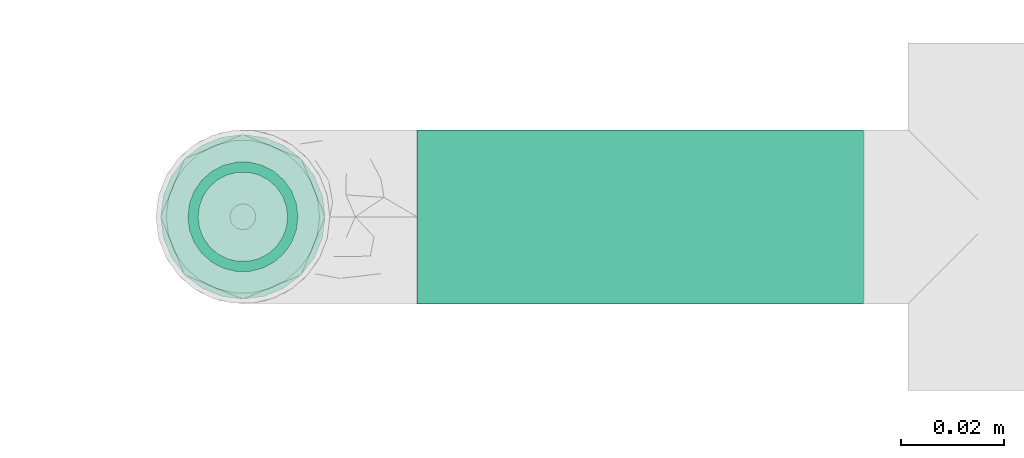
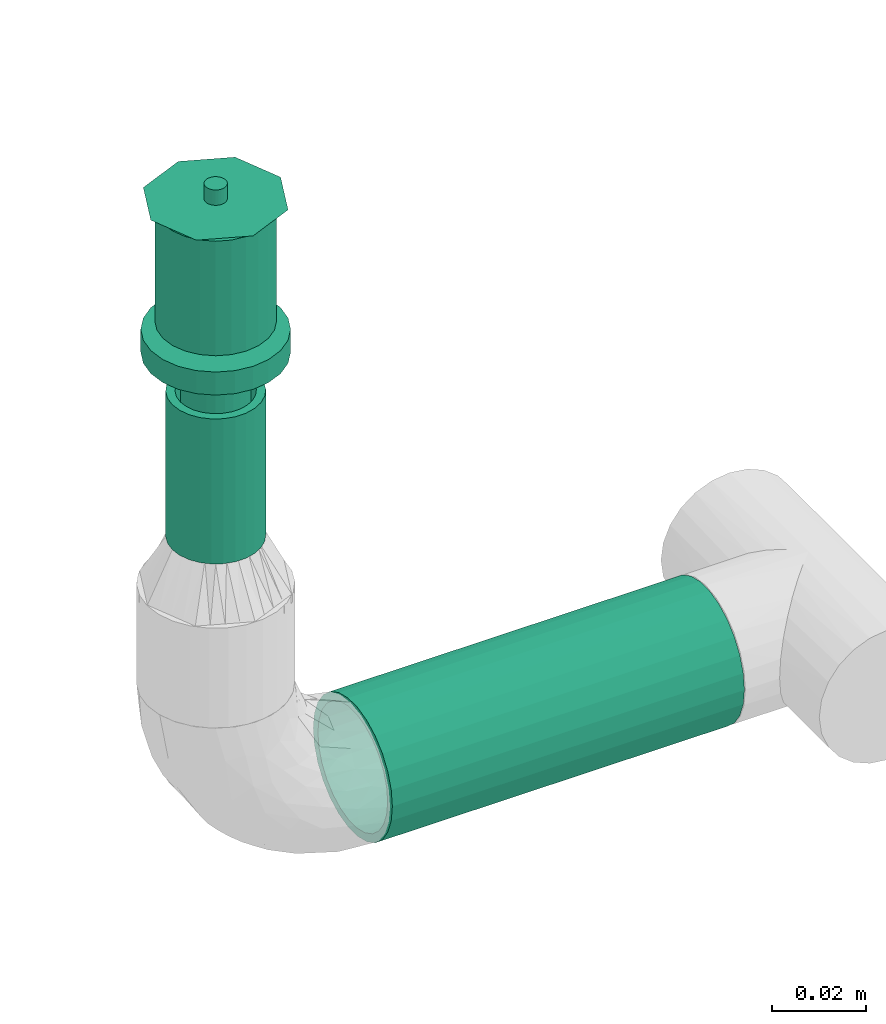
# One storey, part 75 of 157: 2 flow segments, 1 flow terminal.
"""IFC2X3 building model written with IfcOpenShell, lengths in millimetres."""

from ifc_helpers import new_model, entity, si_unit, converted_unit, derived_unit, direction, frame, origin_with_axes, origin_2d_with_axis, place, context, subcontext, project, spatial, hollow_circle, extrude, open_shell, surface_model, source, transform, mapped, type_object, element, save


model = new_model("IFC2X3")

# Units and contexts
model_context = context("Model", 3, precision=0.01, world=frame((0.0, 4.29681676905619e-09, 0.0)), true_north=direction((4.01073788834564e-13, 1.0)))
plan_context = context("Plan", 3, precision=0.01, world=frame((0.0, 4.29681676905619e-09, 0.0)), true_north=direction((4.01073788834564e-13, 1.0)))
body_context = subcontext(model_context, "Body", "Model", "MODEL_VIEW")
ifc_project = project(units=[converted_unit("PLANEANGLEUNIT", "DEGREE", entity("IfcPositiveLengthMeasure", 0.0174532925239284), si_unit("PLANEANGLEUNIT", "RADIAN"), dimensions=[0, 0, 0, 0, 0, 0, 0]), si_unit("AREAUNIT", "SQUARE_METRE"), si_unit("LENGTHUNIT", "METRE", prefix="MILLI"), si_unit("MASSUNIT", "GRAM", prefix="KILO"), si_unit("POWERUNIT", "WATT"), si_unit("PRESSUREUNIT", "PASCAL"), si_unit("FORCEUNIT", "NEWTON", prefix="KILO"), si_unit("ELECTRICCURRENTUNIT", "AMPERE"), si_unit("THERMODYNAMICTEMPERATUREUNIT", "DEGREE_CELSIUS"), si_unit("TIMEUNIT", "SECOND"), si_unit("VOLUMEUNIT", "CUBIC_METRE"), derived_unit("LINEARVELOCITYUNIT", [(si_unit("LENGTHUNIT", "METRE"), 1), (si_unit("TIMEUNIT", "SECOND"), -1)]), derived_unit("VOLUMETRICFLOWRATEUNIT", [(si_unit("VOLUMEUNIT", "CUBIC_METRE"), 1), (si_unit("TIMEUNIT", "SECOND"), -1)]), derived_unit("THERMALTRANSMITTANCEUNIT", [(si_unit("POWERUNIT", "WATT"), 1), (si_unit("THERMODYNAMICTEMPERATUREUNIT", "KELVIN"), -1), (si_unit("AREAUNIT", "SQUARE_METRE"), -1)])], contexts=[model_context, plan_context])

# Site, building, storey
site_placement = place(None, frame((0.0, -4.29681676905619e-09, 0.0), z_axis=(0.0, 0.0, 1.0), x_axis=(1.0, 0.0, 0.0)))
site = spatial("IfcSite", under=ifc_project, at=site_placement, CompositionType="ELEMENT")
building_placement = place(site_placement, frame((0.0, 4.29681676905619e-09, 0.0), z_axis=(0.0, 0.0, 1.0), x_axis=(1.0, 0.0, 0.0)))
building = spatial("IfcBuilding", under=site, at=building_placement, Name="mc-building", CompositionType="ELEMENT")
storey_placement = place(building_placement, frame((0.0, 0.0, 204000.0), z_axis=(0.0, 0.0, 1.0), x_axis=(1.0, 0.0, 0.0)))
storey = spatial("IfcBuildingStorey", under=building, at=storey_placement, Name="Nivå D", CompositionType="ELEMENT", Elevation=204000.0)

# Flow segments
pipe_segment_type = type_object("IfcPipeSegmentType", Name="Stålrør normaltykke", PredefinedType="RIGIDSEGMENT")
shared_shape_1 = source(origin_with_axes(), body_context, "Body", "SweptSolid", [
    extrude(hollow_circle(Radius=16.9, WallThickness=2.0, at=origin_2d_with_axis()), frame((0.0, 0.0, 0.0), z_axis=(1.0, 0.0, 0.0), x_axis=(0.0, 1.0, 0.0)), (0.0, 0.0, 1.0), 86.8),
])
flow_segment_1_placement = place(storey_placement, frame((515910.63732, 415796.86725, 2565.0), z_axis=(0.0, 0.0, 1.0), x_axis=(1.0, 0.0, 0.0)))
element("IfcFlowSegment", 1, at=flow_segment_1_placement, inside=storey, type_object=pipe_segment_type, Name="Stålrør normaltykke", context=body_context, shape_type="MappedRepresentation", body=[
    mapped(shared_shape_1, transform((0.0, 0.0, 0.0), scale=1.0)),
])
shared_shape_2 = source(origin_with_axes(), body_context, "Body", "SweptSolid", [
    extrude(hollow_circle(Radius=10.7, WallThickness=2.0, at=origin_2d_with_axis()), frame((0.0, 0.0, 0.0), z_axis=(1.0, 0.0, 0.0), x_axis=(0.0, 1.0, 0.0)), (0.0, 0.0, 1.0), 37.8),
])
flow_segment_2_placement = place(storey_placement, frame((515876.83732, 415796.86725, 2675.04800000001), z_axis=(0.0, 1.0, 0.0), x_axis=(0.0, 0.0, -1.0)))
element("IfcFlowSegment", 2, at=flow_segment_2_placement, inside=storey, type_object=pipe_segment_type, Name="Stålrør normaltykke", context=body_context, shape_type="MappedRepresentation", body=[
    mapped(shared_shape_2, transform((0.0, 0.0, 0.0), scale=1.0)),
])

# Flow terminal
fire_suppression_terminal_type = type_object("IfcFireSuppressionTerminalType", Name="68DGR-STD-STÅENDE", PredefinedType="NOTDEFINED")
shared_shape_3 = source(origin_with_axes(), body_context, "Body", "SurfaceModel", [
    surface_model("IfcShellBasedSurfaceModel", [(3.36465, -12.55704, 51.0), (6.5, -11.25833, 51.0), (9.19239, -9.19239, 51.0), (12.55704, -3.36465, 51.0), (-11.25833, -6.5, 51.0), (11.25833, -6.5, 51.0), (-13.0, 0.0, 51.0), (0.0, -13.0, 51.0), (-6.5, -11.25833, 51.0), (-3.36465, -12.55704, 51.0), (-9.19239, -9.19239, 51.0), (-12.55704, -3.36465, 51.0), (13.0, 0.0, 51.0), (12.55704, 3.36465, 51.0), (11.25833, 6.5, 51.0), (9.19239, 9.19239, 51.0), (6.5, 11.25833, 51.0), (3.36465, 12.55704, 51.0), (0.0, 13.0, 51.0), (-3.36465, 12.55704, 51.0), (-12.55704, 3.36465, 51.0), (-9.19239, 9.19239, 51.0), (-11.25833, 6.5, 51.0), (-6.5, 11.25833, 51.0), (0.0, 13.0, 21.14766), (3.36465, 12.55704, 21.14766), (6.5, 11.25833, 21.14766), (-3.36465, 12.55704, 21.14766), (9.19239, 9.19239, 21.14766), (11.25833, 6.5, 21.14766), (12.55704, 3.36465, 21.14766), (-12.55704, 3.36465, 21.14766), (-11.25833, -6.5, 21.14766), (-9.19239, 9.19239, 21.14766), (-6.5, 11.25833, 21.14766), (-11.25833, 6.5, 21.14766), (-13.0, 0.0, 21.14766), (12.55704, -3.36465, 21.14766), (9.19239, -9.19239, 21.14766), (11.25833, -6.5, 21.14766), (6.5, -11.25833, 21.14766), (3.36465, -12.55704, 21.14766), (-6.5, -11.25833, 21.14766), (-9.19239, -9.19239, 21.14766), (-12.55704, -3.36465, 21.14766), (0.0, -13.0, 21.14766), (-3.36465, -12.55704, 21.14766), (13.0, 0.0, 21.14766), (7.24444, -1.94114, 0.1), (1.94114, -7.24444, 0.1), (3.75, -6.49519, 0.1), (5.3033, -5.3033, 0.1), (-5.3033, -5.3033, 0.1), (6.49519, -3.75, 0.1), (5.3033, 5.3033, 0.1), (0.0, -7.5, 0.1), (-3.75, -6.49519, 0.1), (-1.94114, -7.24444, 0.1), (-7.24444, -1.94114, 0.1), (-6.49519, -3.75, 0.1), (-7.24444, 1.94114, 0.1), (7.5, 0.0, 0.1), (6.49519, 3.75, 0.1), (-6.49519, 3.75, 0.1), (1.94114, 7.24444, 0.1), (0.0, 7.5, 0.1), (3.75, 6.49519, 0.1), (-7.5, 0.0, 0.1), (-5.3033, 5.3033, 0.1), (-1.94114, 7.24444, 0.1), (-3.75, 6.49519, 0.1), (7.24444, 1.94114, 0.1), (1.94114, 7.24444, -0.1), (-6.49519, 3.75, -0.1), (0.0, 7.5, -0.1), (5.3033, 5.3033, -0.1), (3.75, 6.49519, -0.1), (6.49519, 3.75, -0.1), (7.24444, 1.94114, -0.1), (-1.94114, 7.24444, -0.1), (-5.3033, 5.3033, -0.1), (-3.75, 6.49519, -0.1), (-7.24444, 1.94114, -0.1), (-7.24444, -1.94114, -0.1), (-7.5, 0.0, -0.1), (7.5, 0.0, -0.1), (7.24444, -1.94114, -0.1), (-5.3033, -5.3033, -0.1), (1.94114, -7.24444, -0.1), (6.49519, -3.75, -0.1), (5.3033, -5.3033, -0.1), (3.75, -6.49519, -0.1), (-6.49519, -3.75, -0.1), (-3.75, -6.49519, -0.1), (0.0, -7.5, -0.1), (-1.94114, -7.24444, -0.1), (0.0, -2.5, 51.0), (-2.5, 0.0, 51.0), (0.0, 2.5, 51.0), (2.5, 0.0, 51.0), (0.0, -16.0, 53.0), (11.31371, -11.31371, 53.0), (-11.31371, -11.31371, 53.0), (-16.0, 0.0, 53.0), (16.0, 0.0, 53.0), (11.31371, 11.31371, 53.0), (0.0, 16.0, 53.0), (-11.31371, 11.31371, 53.0), (1.25, -2.16506, 57.0), (0.0, -2.5, 57.0), (0.64705, -2.41481, 57.0), (2.41481, -0.64705, 57.0), (1.76777, -1.76777, 57.0), (-2.41481, -0.64705, 57.0), (-2.5, 0.0, 57.0), (2.16506, -1.25, 57.0), (-1.25, -2.16506, 57.0), (-0.64705, -2.41481, 57.0), (-1.76777, -1.76777, 57.0), (-2.16506, -1.25, 57.0), (2.5, 0.0, 57.0), (2.41481, 0.64705, 57.0), (2.16506, 1.25, 57.0), (1.76777, 1.76777, 57.0), (0.64705, 2.41481, 57.0), (1.25, 2.16506, 57.0), (-1.76777, 1.76777, 57.0), (0.0, 2.5, 57.0), (-2.16506, 1.25, 57.0), (-2.41481, 0.64705, 57.0), (-0.64705, 2.41481, 57.0), (-1.25, 2.16506, 57.0), (1.25, 2.16506, 51.0), (1.76777, 1.76777, 51.0), (1.15, 1.99186, 51.0), (0.59528, 2.22163, 51.0), (0.64705, 2.41481, 51.0), (0.0, 2.3, 51.0), (1.62635, 1.62635, 51.0), (2.41481, 0.64705, 51.0), (2.3, 0.0, 51.0), (2.22163, 0.59528, 51.0), (2.16506, 1.25, 51.0), (1.99186, 1.15, 51.0), (-0.59528, 2.22163, 51.0), (-0.64705, 2.41481, 51.0), (-1.15, 1.99186, 51.0), (-1.76777, 1.76777, 51.0), (-1.25, 2.16506, 51.0), (-1.62635, 1.62635, 51.0), (-1.99186, 1.15, 51.0), (-2.16506, 1.25, 51.0), (-2.22163, 0.59528, 51.0), (-2.41481, 0.64705, 51.0), (-2.3, 0.0, 51.0), (2.41481, -0.64705, 51.0), (2.22163, -0.59528, 51.0), (1.99186, -1.15, 51.0), (2.16506, -1.25, 51.0), (1.62635, -1.62635, 51.0), (1.76777, -1.76777, 51.0), (1.25, -2.16506, 51.0), (1.15, -1.99186, 51.0), (0.59528, -2.22163, 51.0), (0.64705, -2.41481, 51.0), (0.0, -2.3, 51.0), (-2.16506, -1.25, 51.0), (-1.99186, -1.15, 51.0), (-1.76777, -1.76777, 51.0), (-1.62635, -1.62635, 51.0), (-2.41481, -0.64705, 51.0), (-2.22163, -0.59528, 51.0), (-0.59528, -2.22163, 51.0), (-0.64705, -2.41481, 51.0), (-1.15, -1.99186, 51.0), (-1.25, -2.16506, 51.0), (1.62635, -1.62635, 56.8), (1.15, -1.99186, 56.8), (0.59528, -2.22163, 56.8), (0.0, -2.3, 56.8), (2.22163, 0.59528, 56.8), (1.99186, -1.15, 56.8), (2.22163, -0.59528, 56.8), (-0.59528, -2.22163, 56.8), (-1.15, -1.99186, 56.8), (-1.62635, -1.62635, 56.8), (-1.99186, -1.15, 56.8), (-2.22163, -0.59528, 56.8), (-1.99186, 1.15, 56.8), (2.3, 0.0, 56.8), (1.62635, 1.62635, 56.8), (1.99186, 1.15, 56.8), (1.15, 1.99186, 56.8), (0.0, 2.3, 56.8), (0.59528, 2.22163, 56.8), (-2.22163, 0.59528, 56.8), (-2.3, 0.0, 56.8), (-1.15, 1.99186, 56.8), (-0.59528, 2.22163, 56.8), (-1.62635, 1.62635, 56.8), (4.1411, -15.45481, 19.0), (8.0, -13.85641, 19.0), (11.31371, -11.31371, 19.0), (-8.0, -13.85641, 19.0), (15.45481, -4.1411, 19.0), (16.0, 0.0, 19.0), (13.85641, -8.0, 19.0), (0.0, -16.0, 19.0), (-4.1411, -15.45481, 19.0), (-13.85641, -8.0, 19.0), (-11.31371, -11.31371, 19.0), (-15.45481, -4.1411, 19.0), (15.45481, 4.1411, 19.0), (13.85641, 8.0, 19.0), (11.31371, 11.31371, 19.0), (-4.1411, 15.45481, 19.0), (8.0, 13.85641, 19.0), (4.1411, 15.45481, 19.0), (0.0, 16.0, 19.0), (-13.85641, 8.0, 19.0), (-15.45481, 4.1411, 19.0), (-16.0, 0.0, 19.0), (-11.31371, 11.31371, 19.0), (-8.0, 13.85641, 19.0), (0.0, 16.0, 13.0), (4.1411, 15.45481, 13.0), (8.0, 13.85641, 13.0), (-4.1411, 15.45481, 13.0), (11.31371, 11.31371, 13.0), (13.85641, 8.0, 13.0), (15.45481, 4.1411, 13.0), (-15.45481, -4.1411, 13.0), (-11.31371, 11.31371, 13.0), (-8.0, 13.85641, 13.0), (-13.85641, 8.0, 13.0), (-15.45481, 4.1411, 13.0), (-16.0, 0.0, 13.0), (4.1411, -15.45481, 13.0), (16.0, 0.0, 13.0), (15.45481, -4.1411, 13.0), (13.85641, -8.0, 13.0), (11.31371, -11.31371, 13.0), (8.0, -13.85641, 13.0), (-8.0, -13.85641, 13.0), (-13.85641, -8.0, 13.0), (-11.31371, -11.31371, 13.0), (0.0, -16.0, 13.0), (-4.1411, -15.45481, 13.0), (7.24444, -1.94114, 13.0), (1.94114, -7.24444, 13.0), (3.75, -6.49519, 13.0), (5.3033, -5.3033, 13.0), (-5.3033, -5.3033, 13.0), (6.49519, -3.75, 13.0), (5.3033, 5.3033, 13.0), (0.0, -7.5, 13.0), (-3.75, -6.49519, 13.0), (-1.94114, -7.24444, 13.0), (-7.24444, -1.94114, 13.0), (-6.49519, -3.75, 13.0), (-7.24444, 1.94114, 13.0), (7.5, 0.0, 13.0), (6.49519, 3.75, 13.0), (-6.49519, 3.75, 13.0), (1.94114, 7.24444, 13.0), (0.0, 7.5, 13.0), (3.75, 6.49519, 13.0), (-7.5, 0.0, 13.0), (-5.3033, 5.3033, 13.0), (-1.94114, 7.24444, 13.0), (-3.75, 6.49519, 13.0), (7.24444, 1.94114, 13.0), (3.75, 6.49519, 0.0), (5.3033, 5.3033, 0.0), (3.65, 6.32199, 0.0), (1.88938, 7.05126, 0.0), (0.0, 7.3, 0.0), (1.94114, 7.24444, 0.0), (0.0, 7.5, 0.0), (5.16188, 5.16188, 0.0), (7.24444, 1.94114, 0.0), (7.3, 0.0, 0.0), (7.05126, 1.88938, 0.0), (7.5, 0.0, 0.0), (6.49519, 3.75, 0.0), (6.32199, 3.65, 0.0), (-1.88938, 7.05126, 0.0), (-1.94114, 7.24444, 0.0), (-3.65, 6.32199, 0.0), (-5.3033, 5.3033, 0.0), (-3.75, 6.49519, 0.0), (-5.16188, 5.16188, 0.0), (-6.32199, 3.65, 0.0), (-6.49519, 3.75, 0.0), (-7.05126, 1.88938, 0.0), (-7.24444, 1.94114, 0.0), (-7.3, 0.0, 0.0), (-7.5, 0.0, 0.0), (7.24444, -1.94114, 0.0), (7.05126, -1.88938, 0.0), (6.32199, -3.65, 0.0), (6.49519, -3.75, 0.0), (5.16188, -5.16188, 0.0), (5.3033, -5.3033, 0.0), (3.75, -6.49519, 0.0), (3.65, -6.32199, 0.0), (1.88938, -7.05126, 0.0), (1.94114, -7.24444, 0.0), (0.0, -7.3, 0.0), (0.0, -7.5, 0.0), (-6.49519, -3.75, 0.0), (-6.32199, -3.65, 0.0), (-5.3033, -5.3033, 0.0), (-5.16188, -5.16188, 0.0), (-7.24444, -1.94114, 0.0), (-7.05126, -1.88938, 0.0), (-1.88938, -7.05126, 0.0), (-1.94114, -7.24444, 0.0), (-3.65, -6.32199, 0.0), (-3.75, -6.49519, 0.0), (1.88938, -7.05126, 12.8), (0.0, -7.3, 12.8), (3.65, -6.32199, 12.8), (5.16188, -5.16188, 12.8), (6.32199, -3.65, 12.8), (7.05126, 1.88938, 12.8), (7.05126, -1.88938, 12.8), (-5.16188, -5.16188, 12.8), (-1.88938, -7.05126, 12.8), (-3.65, -6.32199, 12.8), (-6.32199, -3.65, 12.8), (-7.05126, -1.88938, 12.8), (0.0, 7.3, 12.8), (7.3, 0.0, 12.8), (6.32199, 3.65, 12.8), (5.16188, 5.16188, 12.8), (3.65, 6.32199, 12.8), (1.88938, 7.05126, 12.8), (-6.32199, 3.65, 12.8), (-7.05126, 1.88938, 12.8), (-7.3, 0.0, 12.8), (-3.65, 6.32199, 12.8), (-1.88938, 7.05126, 12.8), (-5.16188, 5.16188, 12.8)], [open_shell([[[0, 1, 2]], [[0, 2, 3]], [[0, 3, 4]], [[3, 2, 5]], [[6, 4, 3]], [[7, 8, 9]], [[7, 0, 8]], [[8, 4, 10]], [[0, 4, 8]], [[4, 6, 11]], [[6, 3, 12]], [[13, 14, 15]], [[6, 13, 15]], [[16, 17, 18]], [[15, 16, 19]], [[18, 19, 16]], [[20, 21, 22]], [[20, 6, 15]], [[21, 19, 23]], [[19, 21, 20]], [[15, 19, 20]], [[13, 6, 12]], [[24, 25, 26]], [[27, 24, 26]], [[28, 29, 30]], [[26, 28, 31]], [[28, 32, 31]], [[27, 33, 34]], [[33, 27, 31]], [[33, 31, 35]], [[27, 26, 31]], [[31, 32, 36]], [[32, 28, 30]], [[32, 30, 37]], [[38, 37, 39]], [[38, 40, 41]], [[38, 41, 37]], [[32, 37, 41]], [[32, 42, 43]], [[44, 36, 32]], [[42, 45, 46]], [[42, 32, 41]], [[45, 42, 41]], [[30, 47, 37]], [[4, 32, 43]], [[8, 42, 46]], [[43, 42, 10]], [[9, 46, 45]], [[36, 11, 6]], [[11, 36, 44]], [[11, 44, 4]], [[44, 32, 4]], [[43, 10, 4]], [[8, 10, 42]], [[46, 9, 8]], [[45, 7, 9]], [[0, 41, 40]], [[38, 1, 40]], [[5, 39, 37]], [[38, 39, 2]], [[3, 37, 47]], [[41, 0, 7]], [[40, 1, 0]], [[38, 2, 1]], [[39, 5, 2]], [[3, 5, 37]], [[47, 12, 3]], [[41, 7, 45]], [[30, 13, 47]], [[29, 14, 30]], [[25, 24, 17]], [[15, 29, 28]], [[30, 14, 13]], [[13, 12, 47]], [[16, 26, 17]], [[16, 15, 28]], [[26, 25, 17]], [[15, 14, 29]], [[28, 26, 16]], [[24, 18, 17]], [[19, 27, 34]], [[33, 23, 34]], [[22, 35, 31]], [[33, 35, 21]], [[20, 31, 36]], [[27, 19, 18]], [[34, 23, 19]], [[33, 21, 23]], [[35, 22, 21]], [[20, 22, 31]], [[36, 6, 20]], [[27, 18, 24]], [[48, 49, 50]], [[48, 50, 51]], [[49, 48, 52]], [[48, 51, 53]], [[54, 52, 48]], [[55, 56, 57]], [[56, 55, 52]], [[52, 58, 59]], [[52, 55, 49]], [[52, 60, 58]], [[54, 48, 61]], [[62, 54, 61]], [[54, 63, 52]], [[64, 65, 54]], [[64, 54, 66]], [[63, 54, 65]], [[63, 60, 52]], [[67, 58, 60]], [[68, 69, 70]], [[69, 68, 63]], [[69, 63, 65]], [[71, 62, 61]], [[72, 73, 74]], [[75, 72, 76]], [[75, 77, 78]], [[72, 75, 73]], [[78, 73, 75]], [[79, 80, 81]], [[80, 79, 73]], [[74, 73, 79]], [[78, 82, 73]], [[82, 83, 84]], [[82, 78, 85]], [[86, 87, 85]], [[88, 86, 89]], [[90, 91, 88]], [[90, 88, 89]], [[87, 86, 88]], [[83, 87, 92]], [[83, 85, 87]], [[93, 94, 95]], [[94, 93, 87]], [[88, 94, 87]], [[85, 83, 82]], [[83, 58, 84]], [[92, 59, 83]], [[56, 87, 93]], [[92, 87, 52]], [[57, 93, 95]], [[83, 59, 58]], [[58, 67, 84]], [[57, 56, 93]], [[52, 87, 56]], [[52, 59, 92]], [[55, 57, 95]], [[95, 94, 55]], [[88, 49, 94]], [[91, 50, 88]], [[53, 90, 89]], [[91, 90, 51]], [[48, 89, 86]], [[91, 51, 50]], [[50, 49, 88]], [[61, 48, 86]], [[53, 89, 48]], [[53, 51, 90]], [[85, 61, 86]], [[94, 49, 55]], [[78, 71, 85]], [[77, 62, 78]], [[66, 75, 76]], [[77, 75, 54]], [[64, 76, 72]], [[78, 62, 71]], [[71, 61, 85]], [[64, 66, 76]], [[54, 75, 66]], [[54, 62, 77]], [[65, 64, 72]], [[72, 74, 65]], [[79, 69, 74]], [[81, 70, 79]], [[63, 80, 73]], [[81, 80, 68]], [[60, 73, 82]], [[81, 68, 70]], [[70, 69, 79]], [[67, 60, 82]], [[63, 73, 60]], [[63, 68, 80]], [[84, 67, 82]], [[74, 69, 65]], [[96, 97, 98]], [[98, 99, 96]], [[100, 101, 102]], [[103, 102, 101]], [[101, 104, 103]], [[104, 105, 106]], [[107, 103, 106]], [[106, 103, 104]], [[99, 98, 105]], [[105, 104, 99]], [[98, 106, 105]], [[98, 107, 106]], [[107, 98, 97]], [[103, 107, 97]], [[97, 96, 102]], [[102, 103, 97]], [[96, 100, 102]], [[96, 101, 100]], [[101, 96, 99]], [[104, 101, 99]], [[108, 109, 110]], [[111, 108, 112]], [[113, 108, 114]], [[111, 112, 115]], [[108, 111, 114]], [[109, 116, 117]], [[116, 109, 118]], [[118, 113, 119]], [[118, 109, 108]], [[108, 113, 118]], [[111, 120, 114]], [[121, 122, 123]], [[114, 121, 123]], [[114, 123, 124]], [[124, 123, 125]], [[126, 124, 127]], [[124, 128, 129]], [[129, 114, 124]], [[126, 130, 131]], [[128, 124, 126]], [[130, 126, 127]], [[121, 114, 120]], [[132, 133, 134]], [[132, 134, 135]], [[136, 135, 137]], [[135, 136, 132]], [[136, 137, 98]], [[134, 133, 138]], [[139, 140, 141]], [[140, 139, 99]], [[139, 141, 142]], [[138, 142, 143]], [[142, 138, 133]], [[143, 142, 141]], [[98, 144, 145]], [[98, 137, 144]], [[145, 144, 146]], [[147, 148, 149]], [[146, 148, 145]], [[149, 148, 146]], [[150, 151, 147]], [[151, 150, 152]], [[150, 147, 149]], [[153, 152, 154]], [[152, 153, 151]], [[153, 154, 97]], [[99, 155, 156]], [[156, 155, 157]], [[157, 158, 159]], [[158, 157, 155]], [[159, 158, 160]], [[160, 161, 162]], [[162, 161, 163]], [[163, 164, 165]], [[164, 163, 161]], [[165, 164, 96]], [[162, 159, 160]], [[166, 167, 168]], [[168, 167, 169]], [[167, 166, 170]], [[97, 171, 170]], [[170, 171, 167]], [[97, 154, 171]], [[172, 96, 173]], [[172, 173, 174]], [[169, 175, 168]], [[175, 169, 174]], [[175, 174, 173]], [[165, 96, 172]], [[156, 140, 99]], [[170, 113, 97]], [[166, 119, 170]], [[116, 168, 175]], [[166, 168, 118]], [[117, 175, 173]], [[170, 119, 113]], [[113, 114, 97]], [[117, 116, 175]], [[118, 168, 116]], [[118, 119, 166]], [[109, 117, 173]], [[173, 96, 109]], [[164, 110, 96]], [[161, 108, 164]], [[115, 160, 158]], [[161, 160, 112]], [[111, 158, 155]], [[161, 112, 108]], [[108, 110, 164]], [[120, 111, 155]], [[115, 158, 111]], [[115, 112, 160]], [[99, 120, 155]], [[96, 110, 109]], [[139, 121, 99]], [[142, 122, 139]], [[125, 133, 132]], [[142, 133, 123]], [[124, 132, 136]], [[139, 122, 121]], [[121, 120, 99]], [[124, 125, 132]], [[123, 133, 125]], [[123, 122, 142]], [[127, 124, 136]], [[136, 98, 127]], [[145, 130, 98]], [[148, 131, 145]], [[128, 147, 151]], [[148, 147, 126]], [[129, 151, 153]], [[148, 126, 131]], [[131, 130, 145]], [[114, 129, 153]], [[128, 151, 129]], [[128, 126, 147]], [[97, 114, 153]], [[98, 130, 127]], [[176, 177, 178]], [[176, 178, 179]], [[180, 176, 179]], [[181, 176, 182]], [[180, 182, 176]], [[183, 184, 179]], [[185, 179, 184]], [[186, 187, 185]], [[185, 187, 188]], [[179, 185, 188]], [[189, 182, 180]], [[190, 191, 180]], [[192, 190, 180]], [[193, 194, 192]], [[180, 193, 192]], [[188, 193, 180]], [[195, 188, 196]], [[196, 188, 187]], [[197, 198, 199]], [[188, 199, 198]], [[188, 198, 193]], [[180, 179, 188]], [[154, 187, 171]], [[171, 186, 167]], [[174, 169, 184]], [[185, 169, 167]], [[172, 174, 183]], [[187, 186, 171]], [[154, 196, 187]], [[174, 184, 183]], [[184, 169, 185]], [[167, 186, 185]], [[172, 183, 179]], [[179, 165, 172]], [[165, 178, 163]], [[163, 177, 162]], [[157, 159, 181]], [[176, 159, 162]], [[156, 157, 182]], [[177, 176, 162]], [[163, 178, 177]], [[156, 182, 189]], [[182, 157, 181]], [[159, 176, 181]], [[156, 189, 140]], [[179, 178, 165]], [[140, 180, 141]], [[141, 191, 143]], [[134, 138, 192]], [[190, 138, 143]], [[135, 134, 194]], [[180, 191, 141]], [[140, 189, 180]], [[134, 192, 194]], [[192, 138, 190]], [[143, 191, 190]], [[135, 194, 193]], [[193, 137, 135]], [[137, 198, 144]], [[144, 197, 146]], [[150, 149, 188]], [[199, 149, 146]], [[152, 150, 195]], [[197, 199, 146]], [[144, 198, 197]], [[152, 195, 196]], [[195, 150, 188]], [[149, 199, 188]], [[152, 196, 154]], [[193, 198, 137]], [[200, 201, 202]], [[203, 200, 202]], [[204, 205, 202]], [[204, 202, 206]], [[203, 202, 205]], [[207, 203, 208]], [[207, 200, 203]], [[203, 209, 210]], [[209, 203, 211]], [[205, 211, 203]], [[205, 212, 211]], [[212, 213, 214]], [[215, 212, 214]], [[216, 217, 218]], [[214, 216, 215]], [[218, 215, 216]], [[211, 219, 220]], [[221, 211, 220]], [[222, 215, 223]], [[215, 222, 219]], [[219, 211, 215]], [[211, 212, 215]], [[224, 225, 226]], [[227, 224, 226]], [[228, 229, 230]], [[227, 226, 228]], [[227, 228, 231]], [[227, 232, 233]], [[232, 227, 234]], [[234, 231, 235]], [[231, 234, 227]], [[235, 231, 236]], [[228, 230, 231]], [[237, 238, 239]], [[237, 239, 240]], [[241, 242, 237]], [[241, 237, 240]], [[238, 237, 243]], [[244, 243, 245]], [[243, 244, 231]], [[243, 246, 247]], [[243, 231, 238]], [[237, 246, 243]], [[238, 231, 230]], [[231, 211, 236]], [[244, 209, 231]], [[203, 245, 243]], [[244, 245, 210]], [[208, 243, 247]], [[231, 209, 211]], [[211, 221, 236]], [[208, 203, 243]], [[210, 245, 203]], [[210, 209, 244]], [[207, 208, 247]], [[247, 246, 207]], [[237, 200, 246]], [[242, 201, 237]], [[206, 241, 240]], [[242, 241, 202]], [[204, 240, 239]], [[242, 202, 201]], [[201, 200, 237]], [[205, 204, 239]], [[206, 240, 204]], [[206, 202, 241]], [[238, 205, 239]], [[246, 200, 207]], [[230, 212, 238]], [[229, 213, 230]], [[216, 228, 226]], [[229, 228, 214]], [[217, 226, 225]], [[230, 213, 212]], [[212, 205, 238]], [[217, 216, 226]], [[214, 228, 216]], [[214, 213, 229]], [[218, 217, 225]], [[225, 224, 218]], [[227, 215, 224]], [[233, 223, 227]], [[219, 232, 234]], [[233, 232, 222]], [[220, 234, 235]], [[233, 222, 223]], [[223, 215, 227]], [[221, 220, 235]], [[219, 234, 220]], [[219, 222, 232]], [[236, 221, 235]], [[224, 215, 218]], [[248, 249, 250]], [[248, 250, 251]], [[249, 248, 252]], [[248, 251, 253]], [[254, 252, 248]], [[255, 256, 257]], [[256, 255, 252]], [[252, 258, 259]], [[252, 255, 249]], [[252, 260, 258]], [[254, 248, 261]], [[262, 254, 261]], [[254, 263, 252]], [[264, 265, 254]], [[264, 254, 266]], [[263, 254, 265]], [[263, 260, 252]], [[267, 258, 260]], [[268, 269, 270]], [[269, 268, 263]], [[269, 263, 265]], [[271, 262, 261]], [[272, 273, 274]], [[272, 274, 275]], [[276, 277, 275]], [[277, 276, 278]], [[275, 277, 272]], [[274, 273, 279]], [[280, 281, 282]], [[281, 280, 283]], [[280, 282, 284]], [[279, 284, 285]], [[284, 279, 273]], [[285, 284, 282]], [[278, 286, 287]], [[287, 286, 288]], [[289, 290, 291]], [[288, 290, 287]], [[288, 291, 290]], [[278, 276, 286]], [[292, 293, 289]], [[293, 292, 294]], [[292, 289, 291]], [[295, 294, 296]], [[294, 295, 293]], [[295, 296, 297]], [[283, 298, 299]], [[299, 298, 300]], [[300, 301, 302]], [[301, 300, 298]], [[302, 301, 303]], [[303, 304, 305]], [[305, 304, 306]], [[306, 307, 308]], [[307, 306, 304]], [[308, 307, 309]], [[305, 302, 303]], [[310, 311, 312]], [[312, 311, 313]], [[311, 310, 314]], [[297, 315, 314]], [[314, 315, 311]], [[297, 296, 315]], [[316, 309, 317]], [[316, 317, 318]], [[313, 319, 312]], [[313, 318, 319]], [[319, 318, 317]], [[308, 309, 316]], [[299, 281, 283]], [[314, 258, 297]], [[310, 259, 314]], [[256, 312, 319]], [[310, 312, 252]], [[257, 319, 317]], [[314, 259, 258]], [[258, 267, 297]], [[257, 256, 319]], [[252, 312, 256]], [[252, 259, 310]], [[255, 257, 317]], [[317, 309, 255]], [[307, 249, 309]], [[304, 250, 307]], [[253, 303, 301]], [[304, 303, 251]], [[248, 301, 298]], [[304, 251, 250]], [[250, 249, 307]], [[261, 248, 298]], [[253, 301, 248]], [[253, 251, 303]], [[283, 261, 298]], [[309, 249, 255]], [[280, 271, 283]], [[284, 262, 280]], [[266, 273, 272]], [[284, 273, 254]], [[264, 272, 277]], [[280, 262, 271]], [[271, 261, 283]], [[264, 266, 272]], [[254, 273, 266]], [[254, 262, 284]], [[265, 264, 277]], [[277, 278, 265]], [[287, 269, 278]], [[290, 270, 287]], [[263, 289, 293]], [[290, 289, 268]], [[260, 293, 295]], [[290, 268, 270]], [[270, 269, 287]], [[267, 260, 295]], [[263, 293, 260]], [[263, 268, 289]], [[297, 267, 295]], [[278, 269, 265]], [[320, 321, 322]], [[323, 322, 324]], [[325, 326, 322]], [[324, 322, 326]], [[322, 327, 325]], [[328, 329, 321]], [[327, 321, 329]], [[330, 331, 327]], [[322, 321, 327]], [[331, 332, 327]], [[326, 325, 333]], [[334, 325, 332]], [[335, 334, 336]], [[332, 337, 336]], [[334, 332, 336]], [[331, 338, 332]], [[339, 338, 340]], [[340, 338, 331]], [[341, 342, 343]], [[332, 338, 343]], [[332, 343, 342]], [[332, 325, 327]], [[296, 331, 315]], [[315, 330, 311]], [[318, 313, 329]], [[327, 313, 311]], [[316, 318, 328]], [[331, 330, 315]], [[296, 340, 331]], [[318, 329, 328]], [[329, 313, 327]], [[311, 330, 327]], [[316, 328, 321]], [[321, 308, 316]], [[308, 320, 306]], [[306, 322, 305]], [[300, 302, 324]], [[323, 302, 305]], [[299, 300, 326]], [[322, 323, 305]], [[306, 320, 322]], [[299, 326, 333]], [[326, 300, 324]], [[302, 323, 324]], [[299, 333, 281]], [[321, 320, 308]], [[281, 325, 282]], [[282, 334, 285]], [[274, 279, 336]], [[335, 279, 285]], [[275, 274, 337]], [[325, 334, 282]], [[281, 333, 325]], [[274, 336, 337]], [[336, 279, 335]], [[285, 334, 335]], [[275, 337, 332]], [[332, 276, 275]], [[276, 342, 286]], [[286, 341, 288]], [[292, 291, 338]], [[343, 291, 288]], [[294, 292, 339]], [[341, 343, 288]], [[286, 342, 341]], [[294, 339, 340]], [[339, 292, 338]], [[291, 343, 338]], [[294, 340, 296]], [[332, 342, 276]]])]),
])
flow_terminal_placement = place(storey_placement, frame((515876.83732, 415796.86725, 2672.0), z_axis=(0.0, 0.0, 1.0), x_axis=(1.0, 0.0, 0.0)))
element("IfcFlowTerminal", 3, at=flow_terminal_placement, inside=storey, type_object=fire_suppression_terminal_type, Name="68DGR-STD-STÅENDE", context=body_context, shape_type="MappedRepresentation", body=[
    mapped(shared_shape_3, transform((0.0, 0.0, 0.0), scale=1.0)),
])

save(model, "model.ifc")
